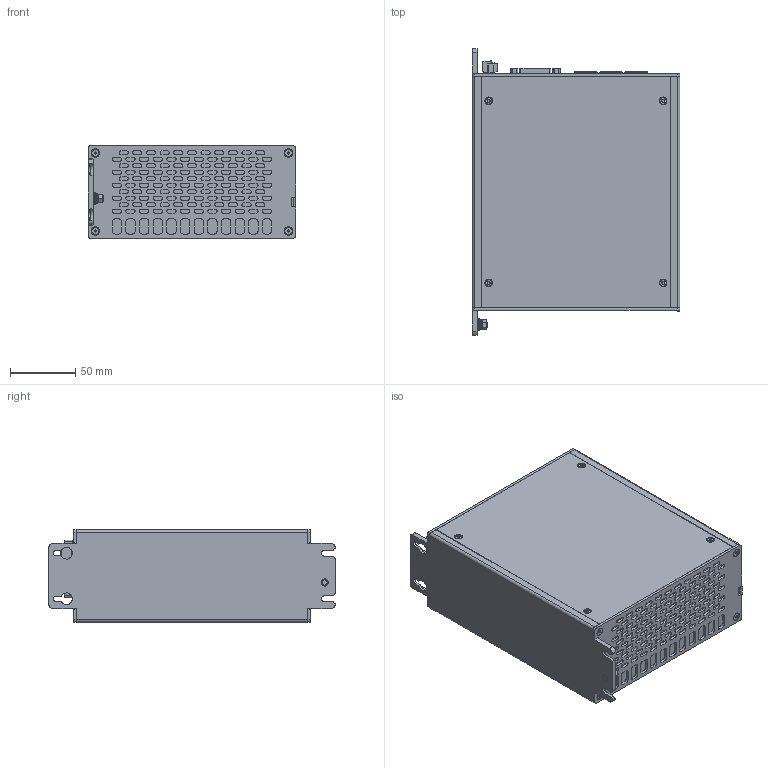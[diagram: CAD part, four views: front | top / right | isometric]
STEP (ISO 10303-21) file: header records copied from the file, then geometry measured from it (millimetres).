
FILE_DESCRIPTION((''),'2;1');
FILE_NAME('C6P33_BM_ASM','2017-09-20T',('androm'),(''),'PRO/ENGINEER BY PARAMETRIC TECHNOLOGY CORPORATION, 2013410','PRO/ENGINEER BY PARAMETRIC TECHNOLOGY CORPORATION, 2013410','');
FILE_SCHEMA(('AUTOMOTIVE_DESIGN { 1 0 10303 214 1 1 1 1 }'));
Products named in the file (1): C6P33_BM_ASM
Bounding box: 159.6 x 220 x 71 mm (x, y, z)
Surface area: 149899.3 mm2 (no closed solid volume)
Topology: 0 solids, 152 shells, 1871 faces, 8202 edges, 6438 vertices
Faces by surface type: plane 1038, cylinder 678, cone 72, torus 64, bspline 19
Entity records: 101838 total; most frequent: CARTESIAN_POINT 20038, DIRECTION 13802, ORIENTED_EDGE 11724, EDGE_CURVE 8190, VERTEX_POINT 6435, VECTOR 5252, LINE 5252, AXIS2_PLACEMENT_3D 4275
